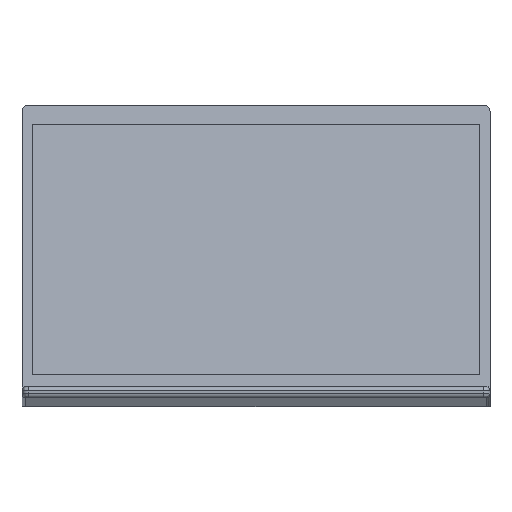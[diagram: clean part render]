
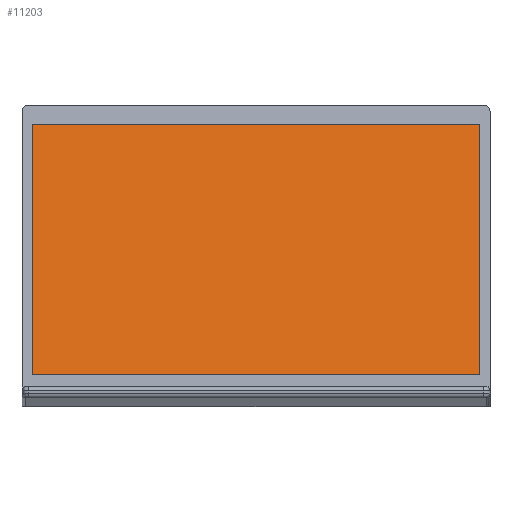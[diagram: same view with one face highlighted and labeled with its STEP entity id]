
A CAD part, front view. The second image highlights one B-rep face of the part: STEP entity #11203.
In plain terms, the highlighted planar face has unit normal (0, -0.985, 0.174).
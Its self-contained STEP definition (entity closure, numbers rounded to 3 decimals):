
#195=FACE_OUTER_BOUND('',#853,.T.);
#853=EDGE_LOOP('',(#7401,#7402,#7403,#7404));
#1638=LINE('',#15485,#3193);
#1642=LINE('',#15492,#3197);
#1645=LINE('',#15498,#3200);
#1647=LINE('',#15501,#3202);
#3193=VECTOR('',#12556,195.228);
#3197=VECTOR('',#12562,344.);
#3200=VECTOR('',#12567,195.228);
#3202=VECTOR('',#12571,344.);
#4748=VERTEX_POINT('',#15482);
#4749=VERTEX_POINT('',#15484);
#4751=VERTEX_POINT('',#15490);
#4753=VERTEX_POINT('',#15496);
#5802=EDGE_CURVE('',#4748,#4749,#1638,.T.);
#5806=EDGE_CURVE('',#4751,#4748,#1642,.T.);
#5809=EDGE_CURVE('',#4753,#4751,#1645,.T.);
#5811=EDGE_CURVE('',#4749,#4753,#1647,.T.);
#7401=ORIENTED_EDGE('',*,*,#5811,.F.);
#7402=ORIENTED_EDGE('',*,*,#5802,.F.);
#7403=ORIENTED_EDGE('',*,*,#5806,.F.);
#7404=ORIENTED_EDGE('',*,*,#5809,.F.);
#10559=PLANE('',#11869);
#11203=ADVANCED_FACE('',(#195),#10559,.F.);
#11869=AXIS2_PLACEMENT_3D('',#15502,#12572,#12573);
#12556=DIRECTION('',(0.,0.174,0.985));
#12562=DIRECTION('',(-1.,0.,0.));
#12567=DIRECTION('',(0.,-0.174,-0.985));
#12571=DIRECTION('',(1.,0.,0.));
#12572=DIRECTION('center_axis',(0.,0.985,-0.174));
#12573=DIRECTION('ref_axis',(0.,0.174,0.985));
#15482=CARTESIAN_POINT('',(-172.,247.721,24.674));
#15484=CARTESIAN_POINT('',(-172.,281.622,216.936));
#15485=CARTESIAN_POINT('',(-172.,247.721,24.674));
#15490=CARTESIAN_POINT('',(172.,247.721,24.674));
#15492=CARTESIAN_POINT('',(172.,247.721,24.674));
#15496=CARTESIAN_POINT('',(172.,281.622,216.936));
#15498=CARTESIAN_POINT('',(172.,281.622,216.936));
#15501=CARTESIAN_POINT('',(-172.,281.622,216.936));
#15502=CARTESIAN_POINT('Origin',(0.,264.672,
120.805));
